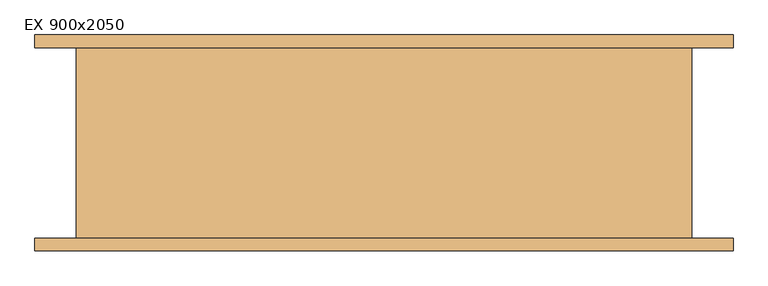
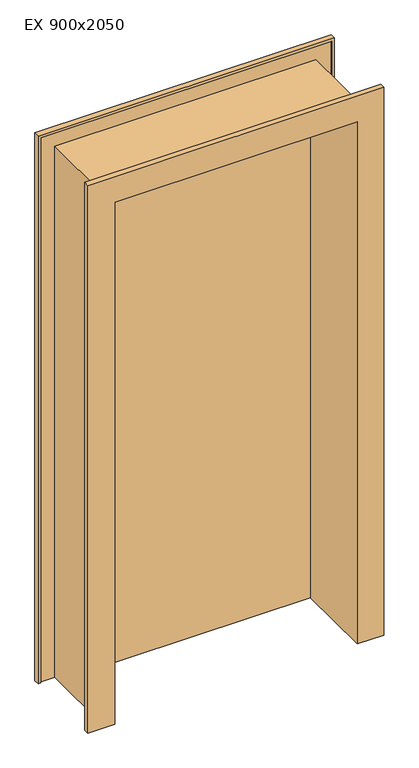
"""IFC4 building model written with IfcOpenShell, lengths in millimetres: door geometry, Dveře : EX 900x2050."""

from ifc_helpers import new_model, si_unit, origin, origin_with_axes, place, context, project, spatial, polyline, outline, extrude, faceted_brep, source, transform, mapped, element, save


def ex_900x2050_f65e0c41(model_context):
    return source(origin(), model_context, "Body", "SolidModel", [
        extrude(outline(polyline([(461.0, 170.0), (461.0, 130.0), (-461.0, 130.0), (-461.0, 170.0), (461.0, 170.0)])), origin_with_axes(), (0.0, 0.0, 1.0), 2061.0),
        faceted_brep([(-450.0, -170.0, 0.0), (-550.0, -170.0, 0.0), (-550.0, -150.0, 0.0), (-540.0, -150.0, 0.0), (-540.0, -155.0, 0.0), (-485.0, -155.0, 0.0), (-485.0, 155.0, 0.0), (-540.0, 155.0, 0.0), (-540.0, 150.0, 0.0), (-550.0, 150.0, 0.0), (-550.0, 170.0, 0.0), (-465.0, 170.0, 0.0), (-465.0, 130.0, 0.0), (-450.0, 130.0, 0.0), (-450.0, -170.0, 2050.0), (450.0, -170.0, 2050.0), (450.0, -170.0, 0.0), (550.0, -170.0, 0.0), (550.0, -170.0, 2150.0), (-550.0, -170.0, 2150.0), (-550.0, -150.0, 2150.0), (550.0, -150.0, 2150.0), (550.0, -150.0, 0.0), (540.0, -150.0, 0.0), (540.0, -150.0, 2140.0), (-540.0, -150.0, 2140.0), (-540.0, -155.0, 2140.0), (540.0, -155.0, 2140.0), (540.0, -155.0, 0.0), (485.0, -155.0, 0.0), (485.0, -155.0, 2085.0), (-485.0, -155.0, 2085.0), (-485.0, 155.0, 2085.0), (485.0, 155.0, 2085.0), (485.0, 155.0, 0.0), (540.0, 155.0, 0.0), (540.0, 155.0, 2140.0), (-540.0, 155.0, 2140.0), (-540.0, 150.0, 2140.0), (540.0, 150.0, 2140.0), (540.0, 150.0, 0.0), (550.0, 150.0, 0.0), (550.0, 150.0, 2150.0), (-550.0, 150.0, 2150.0), (-550.0, 170.0, 2150.0), (550.0, 170.0, 2150.0), (550.0, 170.0, 0.0), (465.0, 170.0, 0.0), (465.0, 170.0, 2065.0), (-465.0, 170.0, 2065.0), (-465.0, 130.0, 2065.0), (465.0, 130.0, 2065.0), (465.0, 130.0, 0.0), (450.0, 130.0, 0.0), (450.0, 130.0, 2050.0), (-450.0, 130.0, 2050.0)], [[[0, 1, 2, 3, 4, 5, 6, 7, 8, 9, 10, 11, 12, 13]], [[1, 0, 14, 15, 16, 17, 18, 19]], [[2, 1, 19, 20]], [[3, 2, 20, 21, 22, 23, 24, 25]], [[4, 3, 25, 26]], [[5, 4, 26, 27, 28, 29, 30, 31]], [[6, 5, 31, 32]], [[7, 6, 32, 33, 34, 35, 36, 37]], [[8, 7, 37, 38]], [[9, 8, 38, 39, 40, 41, 42, 43]], [[10, 9, 43, 44]], [[11, 10, 44, 45, 46, 47, 48, 49]], [[12, 11, 49, 50]], [[13, 12, 50, 51, 52, 53, 54, 55]], [[0, 13, 55, 14]], [[16, 53, 52, 47, 46, 41, 40, 35, 34, 29, 28, 23, 22, 17]], [[15, 54, 53, 16]], [[51, 48, 47, 52]], [[45, 42, 41, 46]], [[39, 36, 35, 40]], [[33, 30, 29, 34]], [[27, 24, 23, 28]], [[21, 18, 17, 22]], [[32, 31, 30, 33]], [[14, 55, 54, 15]], [[50, 49, 48, 51]], [[44, 43, 42, 45]], [[20, 19, 18, 21]], [[38, 37, 36, 39]], [[26, 25, 24, 27]]]),
    ])


if __name__ == "__main__":
    model = new_model("IFC4")
    model_context = context("Model", 3, world=origin())
    ifc_project = project(units=[si_unit("LENGTHUNIT", "METRE", prefix="MILLI")], contexts=[model_context])
    site = spatial("IfcSite", under=ifc_project)
    building = spatial("IfcBuilding", under=site)
    placement = place(None, origin())
    ex_900x2050_shape = ex_900x2050_f65e0c41(model_context)
    element("IfcDoor", 1, ObjectType="Dveře : EX 900x2050", at=placement, inside=building, context=model_context, shape_type="MappedRepresentation", body=[
        mapped(ex_900x2050_shape, transform((0.0, 0.0, 0.0), x_axis=(1.0, 0.0, 0.0), y_axis=(0.0, 1.0, 0.0), z_axis=(0.0, 0.0, 1.0))),
    ])
    save(model, "model.ifc")
